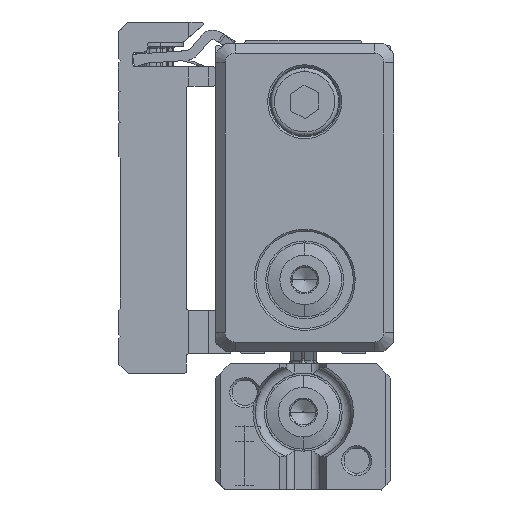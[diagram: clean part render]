
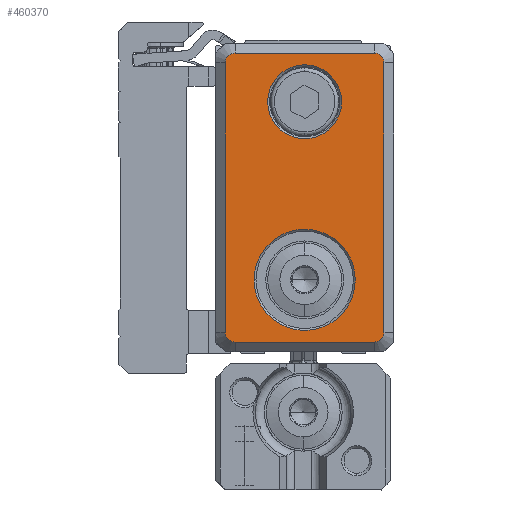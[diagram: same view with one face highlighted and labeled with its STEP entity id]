
A CAD part, left-side view. The second image highlights one B-rep face of the part: STEP entity #460370.
In plain terms, the highlighted planar face has unit normal (-1, 0, 0).
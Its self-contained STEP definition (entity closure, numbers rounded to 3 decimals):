
#440900=CARTESIAN_POINT('',(-227.138,43.35,
-56.983));
#440910=VERTEX_POINT('',#440900);
#440940=CARTESIAN_POINT('',(-227.138,38.15,
-56.983));
#440950=DIRECTION('',(1.,0.,0.));
#440960=DIRECTION('',(0.,-1.,0.));
#440970=AXIS2_PLACEMENT_3D('',#440940,#440950,#440960);
#440980=CIRCLE('',#440970,5.2);
#440990=CARTESIAN_POINT('',(-227.138,32.95,
-56.983));
#441000=VERTEX_POINT('',#440990);
#441010=EDGE_CURVE('',#440910,#441000,#440980,.T.);
#443800=CARTESIAN_POINT('',(-227.138,46.3,
-79.283));
#443810=VERTEX_POINT('',#443800);
#443860=CARTESIAN_POINT('',(-227.138,45.3,
-79.283));
#443870=DIRECTION('',(1.,0.,0.));
#443880=DIRECTION('',(0.,1.,0.));
#443890=AXIS2_PLACEMENT_3D('',#443860,#443870,#443880);
#443900=CIRCLE('',#443890,1.);
#443910=CARTESIAN_POINT('',(-227.138,45.3,
-80.283));
#443920=VERTEX_POINT('',#443910);
#443930=EDGE_CURVE('',#443920,#443810,#443900,.T.);
#444920=CARTESIAN_POINT('',(-227.138,31.,
-50.583));
#444930=VERTEX_POINT('',#444920);
#445740=CARTESIAN_POINT('',(-227.138,30.,
-51.583));
#445750=VERTEX_POINT('',#445740);
#445780=CARTESIAN_POINT('',(-227.138,31.,
-51.583));
#445790=DIRECTION('',(1.,0.,0.));
#445800=DIRECTION('',(0.,1.,0.));
#445810=AXIS2_PLACEMENT_3D('',#445780,#445790,#445800);
#445820=CIRCLE('',#445810,1.);
#445830=EDGE_CURVE('',#444930,#445750,#445820,.T.);
#458500=CARTESIAN_POINT('',(-227.138,41.95,
-75.283));
#458510=VERTEX_POINT('',#458500);
#458670=CARTESIAN_POINT('',(-227.138,34.35,
-75.283));
#458680=VERTEX_POINT('',#458670);
#458710=CARTESIAN_POINT('',(-227.138,38.15,
-75.283));
#458720=DIRECTION('',(-1.,0.,0.));
#458730=DIRECTION('',(0.,1.,0.));
#458740=AXIS2_PLACEMENT_3D('',#458710,#458720,#458730);
#458750=CIRCLE('',#458740,3.8);
#458760=EDGE_CURVE('',#458510,#458680,#458750,.T.);
#459720=CARTESIAN_POINT('',(-227.138,38.15,
-65.583));
#459730=DIRECTION('',(1.,0.,0.));
#459740=DIRECTION('',(0.,1.,0.));
#459750=AXIS2_PLACEMENT_3D('',#459720,#459730,#459740);
#459760=PLANE('',#459750);
#459770=EDGE_CURVE('',#441000,#440910,#440980,.T.);
#459780=ORIENTED_EDGE('',*,*,#459770,.T.);
#459790=ORIENTED_EDGE('',*,*,#441010,.T.);
#459800=EDGE_LOOP('',(#459790,#459780));
#459810=FACE_BOUND('',#459800,.T.);
#459820=EDGE_CURVE('',#458680,#458510,#458750,.T.);
#459830=ORIENTED_EDGE('',*,*,#459820,.F.);
#459840=ORIENTED_EDGE('',*,*,#458760,.F.);
#459850=EDGE_LOOP('',(#459840,#459830));
#459860=FACE_BOUND('',#459850,.T.);
#459870=CARTESIAN_POINT('',(-227.138,46.75,
-80.283));
#459880=DIRECTION('',(0.,-1.,0.));
#459890=VECTOR('',#459880,1.);
#459900=LINE('',#459870,#459890);
#459910=CARTESIAN_POINT('',(-227.138,31.,
-80.283));
#459920=VERTEX_POINT('',#459910);
#459930=EDGE_CURVE('',#443920,#459920,#459900,.T.);
#459940=ORIENTED_EDGE('',*,*,#459930,.T.);
#459950=ORIENTED_EDGE('',*,*,#443930,.F.);
#459960=CARTESIAN_POINT('',(-227.138,46.3,
-49.133));
#459970=DIRECTION('',(0.,0.,-1.));
#459980=VECTOR('',#459970,1.);
#459990=LINE('',#459960,#459980);
#460000=CARTESIAN_POINT('',(-227.138,46.3,
-51.583));
#460010=VERTEX_POINT('',#460000);
#460020=EDGE_CURVE('',#460010,#443810,#459990,.T.);
#460030=ORIENTED_EDGE('',*,*,#460020,.T.);
#460040=CARTESIAN_POINT('',(-227.138,45.3,
-51.583));
#460050=DIRECTION('',(1.,0.,0.));
#460060=DIRECTION('',(0.,1.,0.));
#460070=AXIS2_PLACEMENT_3D('',#460040,#460050,#460060);
#460080=CIRCLE('',#460070,1.);
#460090=CARTESIAN_POINT('',(-227.138,45.3,
-50.583));
#460100=VERTEX_POINT('',#460090);
#460110=EDGE_CURVE('',#460010,#460100,#460080,.T.);
#460120=ORIENTED_EDGE('',*,*,#460110,.F.);
#460130=CARTESIAN_POINT('',(-227.138,46.75,
-50.583));
#460140=DIRECTION('',(0.,1.,0.));
#460150=VECTOR('',#460140,1.);
#460160=LINE('',#460130,#460150);
#460170=EDGE_CURVE('',#444930,#460100,#460160,.T.);
#460180=ORIENTED_EDGE('',*,*,#460170,.T.);
#460190=ORIENTED_EDGE('',*,*,#445830,.F.);
#460200=CARTESIAN_POINT('',(-227.138,30.,
-49.133));
#460210=DIRECTION('',(0.,0.,1.));
#460220=VECTOR('',#460210,1.);
#460230=LINE('',#460200,#460220);
#460240=CARTESIAN_POINT('',(-227.138,30.,
-79.283));
#460250=VERTEX_POINT('',#460240);
#460260=EDGE_CURVE('',#460250,#445750,#460230,.T.);
#460270=ORIENTED_EDGE('',*,*,#460260,.T.);
#460280=CARTESIAN_POINT('',(-227.138,31.,
-79.283));
#460290=DIRECTION('',(1.,0.,0.));
#460300=DIRECTION('',(0.,1.,0.));
#460310=AXIS2_PLACEMENT_3D('',#460280,#460290,#460300);
#460320=CIRCLE('',#460310,1.);
#460330=EDGE_CURVE('',#460250,#459920,#460320,.T.);
#460340=ORIENTED_EDGE('',*,*,#460330,.F.);
#460350=EDGE_LOOP('',(#460340,#460270,#460190,#460180,#460120,#460030,
#459950,#459940));
#460360=FACE_OUTER_BOUND('',#460350,.T.);
#460370=ADVANCED_FACE('',(#459810,#459860,#460360),#459760,.F.);
